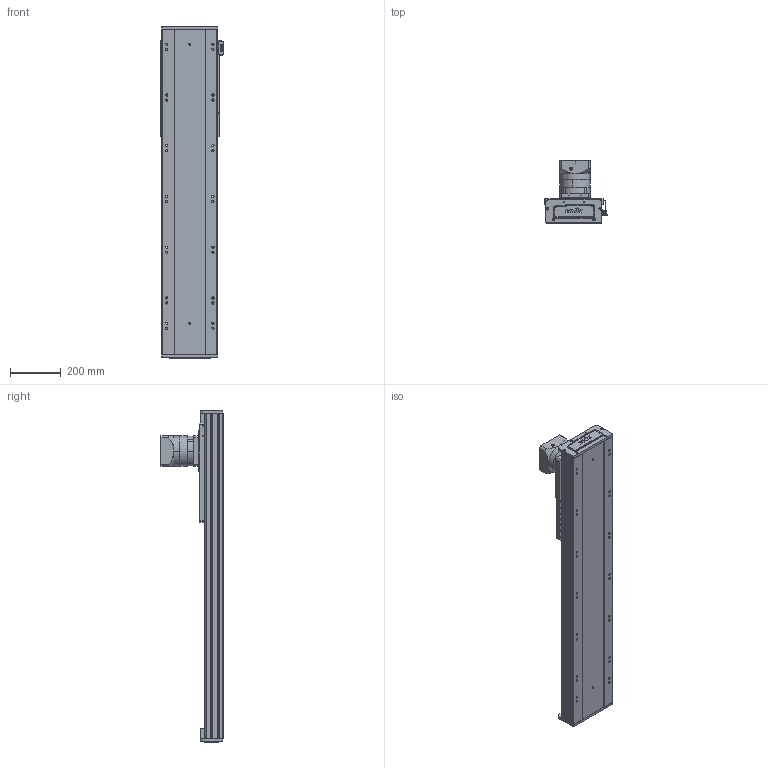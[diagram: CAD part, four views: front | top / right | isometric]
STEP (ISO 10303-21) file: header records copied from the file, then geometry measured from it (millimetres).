
FILE_DESCRIPTION (( 'STEP AP203' ), '1' );
FILE_NAME ('RY220-C-300-UK.SLDASM_0800.step', '2022-08-01T05:58:52', ( '' ), ( '' ), 'SwSTEP 2.0', 'SolidWorks 2016', '' );
FILE_SCHEMA (( 'CONFIG_CONTROL_DESIGN' ));
Length unit declared in the file: millimetre
Products named in the file (10): RY220菁釱MK-300_0800; RY220喘沭綴裔啣; RY140直线电机感应器674光电安装座; RY220喘沭俋离覜茼え; RY220-齿条模组电机安装板; PF115L1-S2-22-58-110-145-M8; 滅袉蝶輸ㄗG412隅秶ㄘ; RY220-C-300-UK.SLDASM_0800; 覜茼ん674; RY220喘沭賑輸
Assembly tree (12 placements, depth 2):
  RY220-C-300-UK.SLDASM_0800
    RY220菁釱MK-300_0800
    RY220喘沭賑輸
    RY220-齿条模组电机安装板
    PF115L1-S2-22-58-110-145-M8
    RY220喘沭綴裔啣  x2
    滅袉蝶輸ㄗG412隅秶ㄘ  x2
    RY140直线电机感应器674光电安装座
    覜茼ん674  x2
    RY220喘沭俋离覜茼え
Bounding box: 247 x 244.5 x 1309 mm (x, y, z)
Volume: 11317771.3 mm3; surface area: 2194593.3 mm2
Topology: 18 solids, 26 shells, 1920 faces, 5141 edges, 3287 vertices
Faces by surface type: cylinder 865, plane 751, bspline 162, cone 142
Entity records: 60661 total; most frequent: CARTESIAN_POINT 16783, DIRECTION 8919, ORIENTED_EDGE 8898, EDGE_CURVE 4449, AXIS2_PLACEMENT_3D 3371, VERTEX_POINT 2913, LINE 2177, VECTOR 2177
